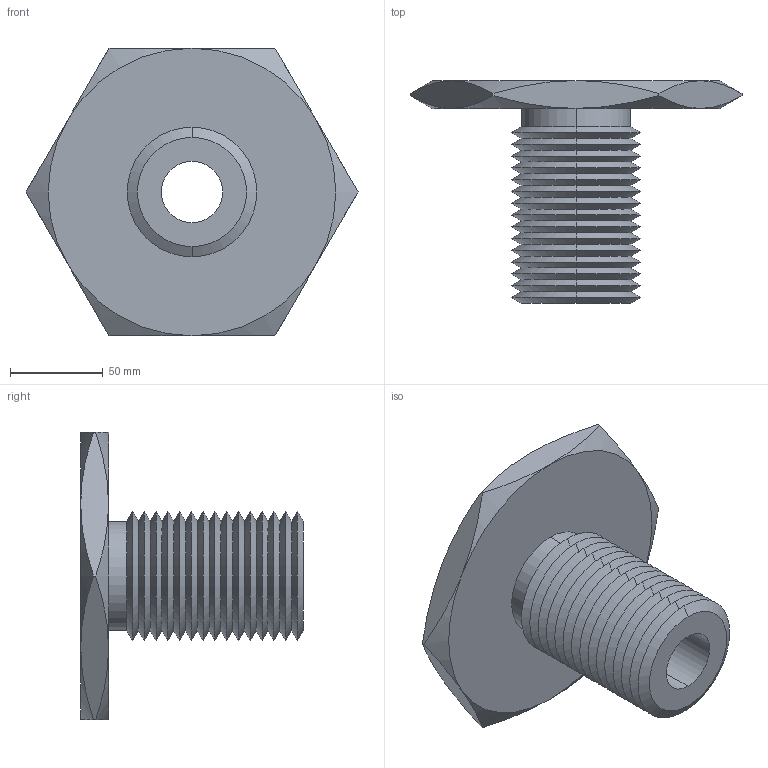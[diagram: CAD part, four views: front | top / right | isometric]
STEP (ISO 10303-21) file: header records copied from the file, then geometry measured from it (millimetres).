
FILE_DESCRIPTION (( 'STEP AP203' ), '1' );
FILE_NAME ('63302.W5275_M33x3,5.step', '2013-12-08T11:52:14', ( 'User' ), ( '' ), 'SwSTEP 2.0', 'SolidWorks 2009', '' );
FILE_SCHEMA (( 'CONFIG_CONTROL_DESIGN' ));
Length unit declared in the file: millimetre
Products named in the file (1): 63302.W5275_M33x3,5
Bounding box: 178.98 x 120 x 155 mm (x, y, z)
Volume: 537756.9 mm3; surface area: 98564.6 mm2
Topology: 1 solids, 1 shells, 87 faces, 178 edges, 94 vertices
Faces by surface type: cone 74, plane 9, cylinder 4
Entity records: 2479 total; most frequent: CARTESIAN_POINT 584, DIRECTION 412, ORIENTED_EDGE 356, EDGE_CURVE 178, AXIS2_PLACEMENT_3D 170, VERTEX_POINT 94, EDGE_LOOP 90, ADVANCED_FACE 87
